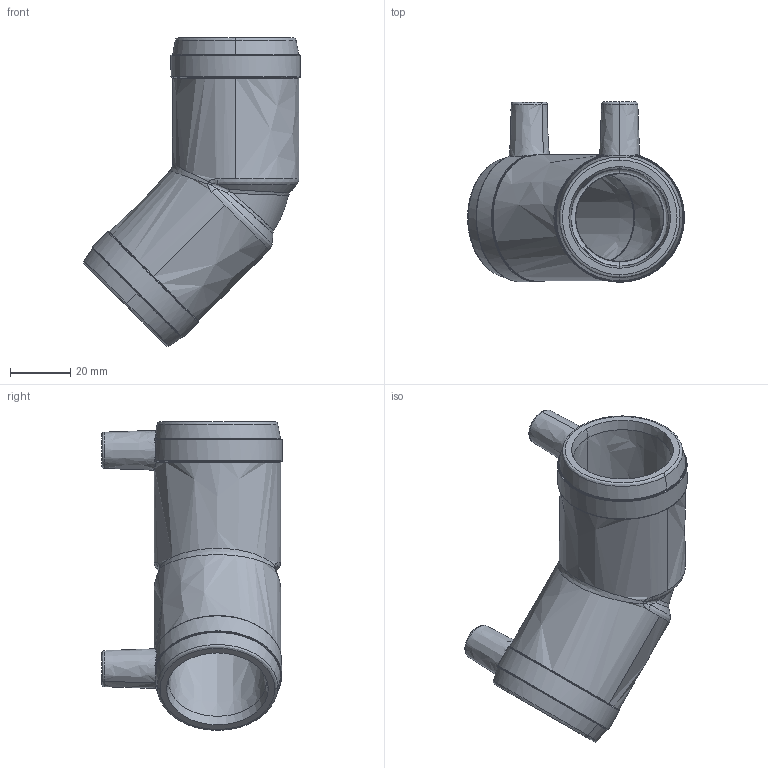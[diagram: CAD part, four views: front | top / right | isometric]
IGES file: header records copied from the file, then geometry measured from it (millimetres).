
Start section:  PTC IGES file: w45_d032_01.igs
Global section: file name: w45_d032_01.igs; native system: Pro/ENGINEER by Parametric Technology Corporation; preprocessor: 2011490; author: mtunjic; organization: Unknown; date: 20130812.112753; units: millimetre
Bounding box: 72.03 x 59.9 x 102.53 mm (x, y, z)
Surface area: 26349.7 mm2 (no closed solid volume)
Topology: 0 solids, 0 shells, 246 faces, 1228 edges, 1228 vertices
Faces by surface type: bspline 246
